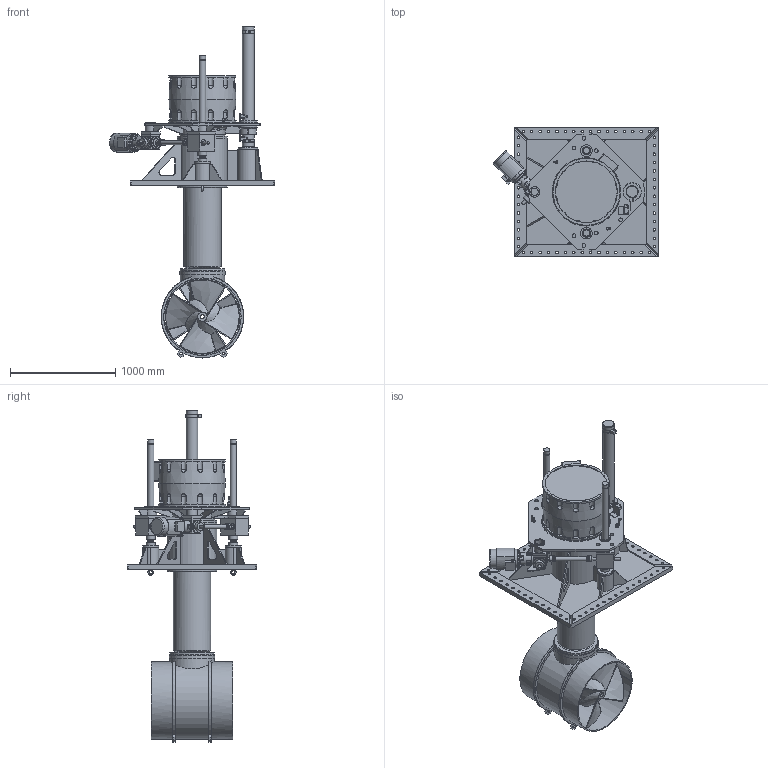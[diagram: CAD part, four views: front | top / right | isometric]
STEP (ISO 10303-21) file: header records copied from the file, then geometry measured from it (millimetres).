
FILE_DESCRIPTION(/* description */ (''),/* implementation_level */ '2;1');
FILE_NAME(/* name */ 'Q:\THRUSTERS\THRUSTER SALES & SUPPORT DOCS\THRUSTER Sales\E-V\E-0700-V\E-0700-V-DEPLOYED.stp',/* time_stamp */ '2021-02-04T09:19:11+00:00',/* author */ ('Barney.Webborn'),/* organization */ (''),/* preprocessor_version */ 'ST-DEVELOPER v17.2',/* originating_system */ 'Autodesk Inventor 2019',/* authorisation */ '');
FILE_SCHEMA (('AUTOMOTIVE_DESIGN { 1 0 10303 214 3 1 1 }'));
Products named in the file (1): E-0700-V_Shrinkwrap_1
Bounding box: 1570.25 x 1232 x 3154.19 mm (x, y, z)
Volume: 387894390.4 mm3; surface area: 21421544.6 mm2
Topology: 10 solids, 10 shells, 2402 faces, 6604 edges, 4306 vertices
Faces by surface type: plane 1073, cylinder 721, torus 330, cone 199, bspline 48, sphere 31
Full cylindrical faces by diameter (mm): 3 x6, 7.2 x2, 8 x1, 10 x2, 12 x6, 14.287 x1, 14.3 x1, 17 x2, 17.5 x1, 18 x5, 18.4 x1, 20 x2, 21.5 x1, 24 x67, 24.75 x1, 25 x14, 26.8 x1, 26.86 x1, 26.87 x1, 27 x1, 28 x1, 30 x4, 31.25 x4, 35 x9, 40 x2, 43.2 x4, 48 x1, 54 x5, 60 x12, 62 x4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
Entity records: 86885 total; most frequent: CARTESIAN_POINT 22667, ORIENTED_EDGE 13162, DIRECTION 12698, EDGE_CURVE 6581, AXIS2_PLACEMENT_3D 4824, VERTEX_POINT 4306, LINE 3050, VECTOR 3050
